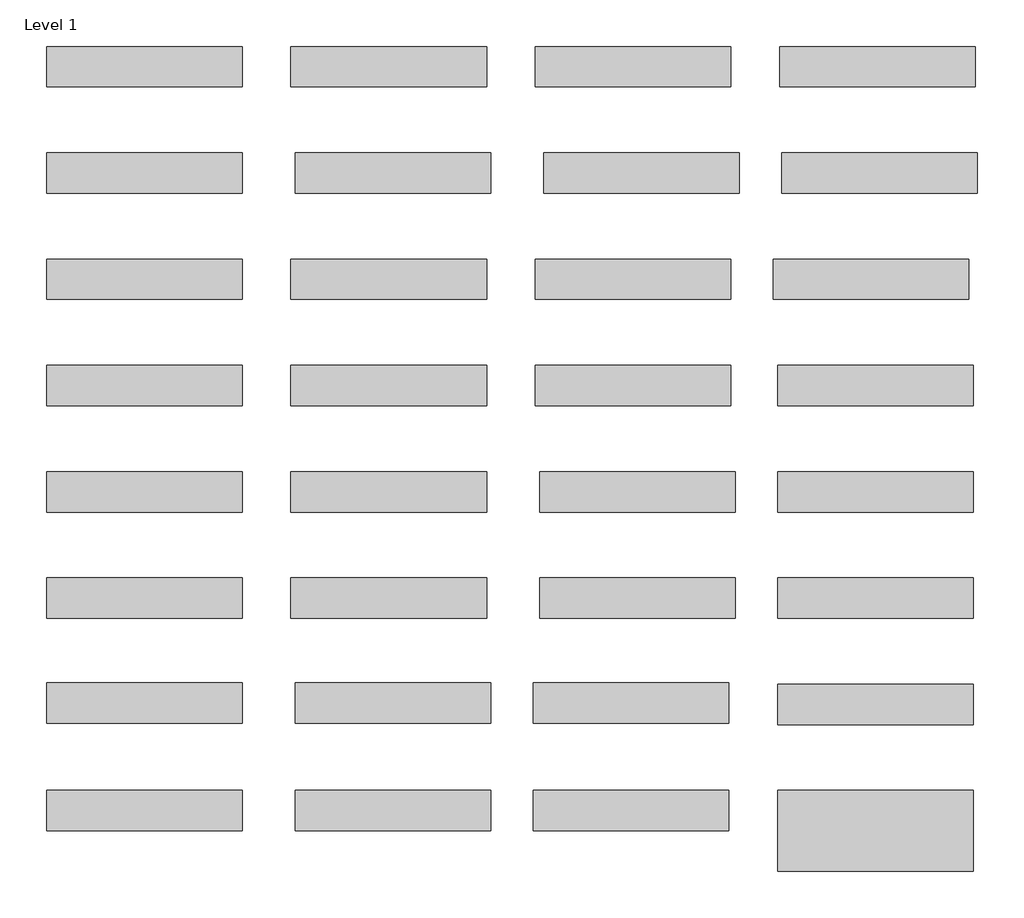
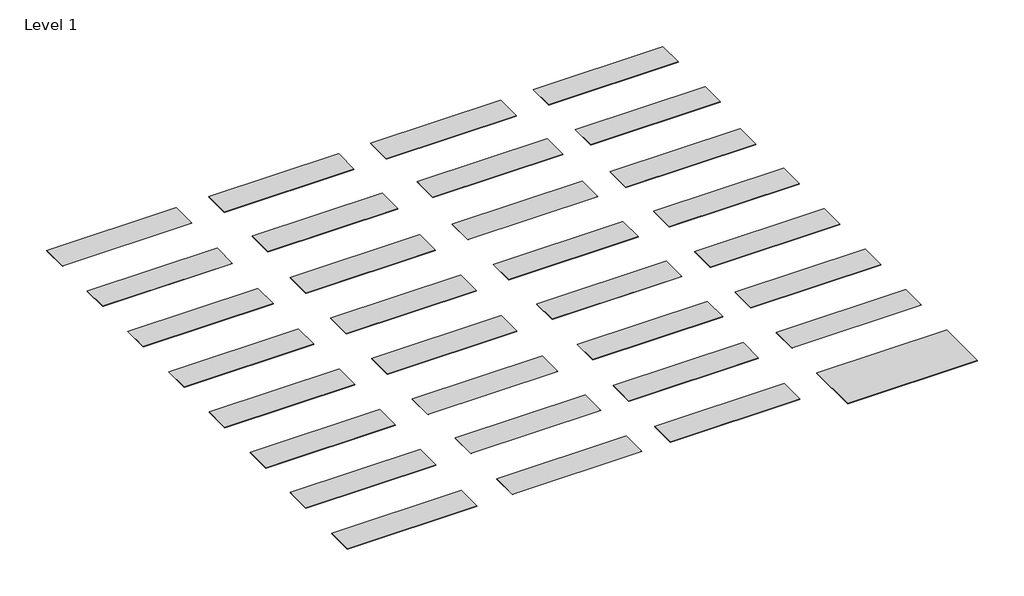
# One storey: 32 proxies.
"""IFC4 building model written with IfcOpenShell, lengths in millimetres."""

from ifc_helpers import new_model, si_unit, origin, place, context, project, spatial, transform, mapped, element, save
from components import generic_models_7f56e2ab, generic_models_bc4f7f2a

model = new_model("IFC4")

# Units and contexts
model_context = context("Model", 3, world=origin())
ifc_project = project(units=[si_unit("LENGTHUNIT", "METRE", prefix="MILLI")], contexts=[model_context])

# Site, building, storey
site = spatial("IfcSite", under=ifc_project)
building = spatial("IfcBuilding", under=site)
storey = spatial("IfcBuildingStorey", under=building, Name="Level 1", Elevation=0.0)

# Proxies
placement = place(None, origin())
generic_models_shape = generic_models_7f56e2ab(model_context)
element("IfcBuildingElementProxy", 1, Name="Indoor-Material_HIMACS_Marmo : Solid-Surface_HIMACS_Marmo_M427-Bellizzi-12mm", ObjectType="Indoor-Material_HIMACS_Marmo : Solid-Surface_HIMACS_Marmo_M427-Bellizzi-12mm", at=placement, inside=storey, context=model_context, shape_type="MappedRepresentation", body=[
    mapped(generic_models_shape, transform((-25932.0748674, 2227.8111796, 0.0), x_axis=(1.0, 0.0, 0.0), y_axis=(0.0, 1.0, 0.0), z_axis=(0.0, 0.0, 1.0))),
])
element("IfcBuildingElementProxy", 2, Name="Indoor-Material_HIMACS_Marmo : Solid-Surface_HIMACS_Marmo_M608_Aurora-Grey-12mm", ObjectType="Indoor-Material_HIMACS_Marmo : Solid-Surface_HIMACS_Marmo_M608_Aurora-Grey-12mm", at=placement, inside=storey, context=model_context, shape_type="MappedRepresentation", body=[
    mapped(generic_models_shape, transform((-12132.0748674, 2227.8111796, 0.0), x_axis=(1.0000000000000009, 0.0, 0.0), y_axis=(0.0, 1.0000000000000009, 0.0), z_axis=(0.0, 0.0, 1.0))),
])
element("IfcBuildingElementProxy", 3, Name="Indoor-Material_HIMACS_Marmo : Solid-Surface_HIMACS_Marmo_M605_Sanremo-12mm", ObjectType="Indoor-Material_HIMACS_Marmo : Solid-Surface_HIMACS_Marmo_M605_Sanremo-12mm", at=placement, inside=storey, context=model_context, shape_type="MappedRepresentation", body=[
    mapped(generic_models_shape, transform((-25932.0748674, 227.8111796, 0.0), x_axis=(1.0000000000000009, 0.0, 0.0), y_axis=(0.0, 1.0000000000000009, 0.0), z_axis=(0.0, 0.0, 1.0))),
])
element("IfcBuildingElementProxy", 4, Name="Indoor-Material_HIMACS_Marmo : Solid-Surface_HIMACS_Marmo_M603_Pavia-12mm", ObjectType="Indoor-Material_HIMACS_Marmo : Solid-Surface_HIMACS_Marmo_M603_Pavia-12mm", at=placement, inside=storey, context=model_context, shape_type="MappedRepresentation", body=[
    mapped(generic_models_shape, transform((-16732.0748674, 2227.8111796, 0.0), x_axis=(1.0, 0.0, 0.0), y_axis=(0.0, 1.0, 0.0), z_axis=(0.0, 0.0, 1.0))),
])
element("IfcBuildingElementProxy", 5, Name="Indoor-Material_HIMACS_Marmo : Solid-Surface_HIMACS_Marmo_M606_Aurora-Bianco-12mm", ObjectType="Indoor-Material_HIMACS_Marmo : Solid-Surface_HIMACS_Marmo_M606_Aurora-Bianco-12mm", at=placement, inside=storey, context=model_context, shape_type="MappedRepresentation", body=[
    mapped(generic_models_shape, transform((-21332.0748674, 2227.8111796, 0.0), x_axis=(1.0000000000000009, 0.0, 0.0), y_axis=(0.0, 1.0000000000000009, 0.0), z_axis=(0.0, 0.0, 1.0))),
])
element("IfcBuildingElementProxy", 6, Name="Indoor-Material_HIMACS_Marmo : Solid-Surface_HIMACS_Marmo_M612_Aurora-Bisque-12mm", ObjectType="Indoor-Material_HIMACS_Marmo : Solid-Surface_HIMACS_Marmo_M612_Aurora-Bisque-12mm", at=placement, inside=storey, context=model_context, shape_type="MappedRepresentation", body=[
    mapped(generic_models_shape, transform((-21252.290677, 227.8111796, 0.0), x_axis=(1.0000000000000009, 0.0, 0.0), y_axis=(0.0, 1.0000000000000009, 0.0), z_axis=(0.0, 0.0, 1.0))),
])
element("IfcBuildingElementProxy", 7, Name="Indoor-Material_HIMACS_Marmo : Solid-Surface_HIMACS_Marmo_M617_Aurora-Blanc-12mm", ObjectType="Indoor-Material_HIMACS_Marmo : Solid-Surface_HIMACS_Marmo_M617_Aurora-Blanc-12mm", at=placement, inside=storey, context=model_context, shape_type="MappedRepresentation", body=[
    mapped(generic_models_shape, transform((-16572.5064865, 227.8111796, 0.0), x_axis=(1.0000000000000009, 0.0, 0.0), y_axis=(0.0, 1.0000000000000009, 0.0), z_axis=(0.0, 0.0, 1.0))),
])
element("IfcBuildingElementProxy", 8, Name="Indoor-Material_HIMACS_Marmo : Solid-Surface_HIMACS_Marmo_M615_Aurora-Cotton-12mm", ObjectType="Indoor-Material_HIMACS_Marmo : Solid-Surface_HIMACS_Marmo_M615_Aurora-Cotton-12mm", at=placement, inside=storey, context=model_context, shape_type="MappedRepresentation", body=[
    mapped(generic_models_shape, transform((-12092.722296, 227.8111796, 0.0), x_axis=(1.0000000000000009, 0.0, 0.0), y_axis=(0.0, 1.0000000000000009, 0.0), z_axis=(0.0, 0.0, 1.0))),
])
element("IfcBuildingElementProxy", 9, Name="Indoor-Material_HIMACS_Marmo : Solid-Surface_HIMACS_Marmo_M615_Aurora-Cotton-12mm", ObjectType="Indoor-Material_HIMACS_Marmo : Solid-Surface_HIMACS_Marmo_M615_Aurora-Cotton-12mm", at=placement, inside=storey, context=model_context, shape_type="MappedRepresentation", body=[
    mapped(generic_models_shape, transform((-21332.0748674, -1772.1888204, 0.0), x_axis=(1.0000000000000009, 0.0, 0.0), y_axis=(0.0, 1.0000000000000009, 0.0), z_axis=(0.0, 0.0, 1.0))),
])
element("IfcBuildingElementProxy", 10, Name="Indoor-Material_HIMACS_Marmo : Solid-Surface_HIMACS_Marmo_M601_Aurora-Torano-12mm", ObjectType="Indoor-Material_HIMACS_Marmo : Solid-Surface_HIMACS_Marmo_M601_Aurora-Torano-12mm", at=placement, inside=storey, context=model_context, shape_type="MappedRepresentation", body=[
    mapped(generic_models_shape, transform((-25932.0748674, -1772.1888204, 0.0), x_axis=(1.0000000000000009, 0.0, 0.0), y_axis=(0.0, 1.0000000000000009, 0.0), z_axis=(0.0, 0.0, 1.0))),
])
element("IfcBuildingElementProxy", 11, Name="Indoor-Material_HIMACS_Marmo : Solid-Surface_HIMACS_Marmo_M623-Aurora-Linen-Cream-12mm", ObjectType="Indoor-Material_HIMACS_Marmo : Solid-Surface_HIMACS_Marmo_M623-Aurora-Linen-Cream-12mm", at=placement, inside=storey, context=model_context, shape_type="MappedRepresentation", body=[
    mapped(generic_models_shape, transform((-16732.0748674, -1772.1888204, 0.0), x_axis=(1.0, 0.0, 0.0), y_axis=(0.0, 1.0, 0.0), z_axis=(0.0, 0.0, 1.0))),
])
element("IfcBuildingElementProxy", 12, Name="Indoor-Material_HIMACS_Marmo : Solid-Surface_HIMACS_Marmo_M625-Aurora-Terra-12mm", ObjectType="Indoor-Material_HIMACS_Marmo : Solid-Surface_HIMACS_Marmo_M625-Aurora-Terra-12mm", at=placement, inside=storey, context=model_context, shape_type="MappedRepresentation", body=[
    mapped(generic_models_shape, transform((-12252.290677, -1772.1888204, 0.0), x_axis=(1.0, 0.0, 0.0), y_axis=(0.0, 1.0, 0.0), z_axis=(0.0, 0.0, 1.0))),
])
element("IfcBuildingElementProxy", 13, Name="Indoor-Material_HIMACS_Marmo : Solid-Surface_HIMACS_Marmo_M627-Aurora-Butter-Cream-12mm", ObjectType="Indoor-Material_HIMACS_Marmo : Solid-Surface_HIMACS_Marmo_M627-Aurora-Butter-Cream-12mm", at=placement, inside=storey, context=model_context, shape_type="MappedRepresentation", body=[
    mapped(generic_models_shape, transform((-25932.0748674, -3772.1888204, 0.0), x_axis=(1.0, 0.0, 0.0), y_axis=(0.0, 1.0, 0.0), z_axis=(0.0, 0.0, 1.0))),
])
element("IfcBuildingElementProxy", 14, Name="Indoor-Material_HIMACS_Marmo : Solid-Surface_HIMACS_Marmo_M701-Aurora-Ecru-12mm", ObjectType="Indoor-Material_HIMACS_Marmo : Solid-Surface_HIMACS_Marmo_M701-Aurora-Ecru-12mm", at=placement, inside=storey, context=model_context, shape_type="MappedRepresentation", body=[
    mapped(generic_models_shape, transform((-21332.0748674, -3772.1888204, 0.0), x_axis=(1.0, 0.0, 0.0), y_axis=(0.0, 1.0, 0.0), z_axis=(0.0, 0.0, 1.0))),
])
element("IfcBuildingElementProxy", 15, Name="Indoor-Material_HIMACS_Marmo : Solid-Surface_HIMACS_Marmo_M702-Aurora-Frost-12mm", ObjectType="Indoor-Material_HIMACS_Marmo : Solid-Surface_HIMACS_Marmo_M702-Aurora-Frost-12mm", at=placement, inside=storey, context=model_context, shape_type="MappedRepresentation", body=[
    mapped(generic_models_shape, transform((-16732.0748674, -3772.1888204, 0.0), x_axis=(1.0, 0.0, 0.0), y_axis=(0.0, 1.0, 0.0), z_axis=(0.0, 0.0, 1.0))),
])
element("IfcBuildingElementProxy", 16, Name="Indoor-Material_HIMACS_Marmo : Solid-Surface_HIMACS_Marmo_M703-Aurora-Midnight-12mm", ObjectType="Indoor-Material_HIMACS_Marmo : Solid-Surface_HIMACS_Marmo_M703-Aurora-Midnight-12mm", at=placement, inside=storey, context=model_context, shape_type="MappedRepresentation", body=[
    mapped(generic_models_shape, transform((-25932.0748674, -5772.1888204, 0.0), x_axis=(1.0, 0.0, 0.0), y_axis=(0.0, 1.0, 0.0), z_axis=(0.0, 0.0, 1.0))),
])
element("IfcBuildingElementProxy", 17, Name="Indoor-Material_HIMACS_Marmo : Solid-Surface_HIMACS_Marmo_M705-Aurora-Canyon-12mm", ObjectType="Indoor-Material_HIMACS_Marmo : Solid-Surface_HIMACS_Marmo_M705-Aurora-Canyon-12mm", at=placement, inside=storey, context=model_context, shape_type="MappedRepresentation", body=[
    mapped(generic_models_shape, transform((-21332.0748674, -5772.1888204, 0.0), x_axis=(1.0, 0.0, 0.0), y_axis=(0.0, 1.0, 0.0), z_axis=(0.0, 0.0, 1.0))),
])
element("IfcBuildingElementProxy", 18, Name="Indoor-Material_HIMACS_Marmo : Solid-Surface_HIMACS_Marmo_M706-Aurora-Angora-12mm", ObjectType="Indoor-Material_HIMACS_Marmo : Solid-Surface_HIMACS_Marmo_M706-Aurora-Angora-12mm", at=placement, inside=storey, context=model_context, shape_type="MappedRepresentation", body=[
    mapped(generic_models_shape, transform((-16652.290677, -5772.1888204, 0.0), x_axis=(1.0, 0.0, 0.0), y_axis=(0.0, 1.0, 0.0), z_axis=(0.0, 0.0, 1.0))),
])
element("IfcBuildingElementProxy", 19, Name="Indoor-Material_HIMACS_Marmo : Solid-Surface_HIMACS_Marmo_M707-Aurora-Magnolia-12mm", ObjectType="Indoor-Material_HIMACS_Marmo : Solid-Surface_HIMACS_Marmo_M707-Aurora-Magnolia-12mm", at=placement, inside=storey, context=model_context, shape_type="MappedRepresentation", body=[
    mapped(generic_models_shape, transform((-12172.5064865, -5772.1888204, 0.0), x_axis=(1.0, 0.0, 0.0), y_axis=(0.0, 1.0, 0.0), z_axis=(0.0, 0.0, 1.0))),
])
element("IfcBuildingElementProxy", 20, Name="Indoor-Material_HIMACS_Marmo : Solid-Surface_HIMACS_Marmo_M801_Calacatta-Luna-12mm", ObjectType="Indoor-Material_HIMACS_Marmo : Solid-Surface_HIMACS_Marmo_M801_Calacatta-Luna-12mm", at=placement, inside=storey, context=model_context, shape_type="MappedRepresentation", body=[
    mapped(generic_models_shape, transform((-21332.0748674, -7772.1888204, 0.0), x_axis=(1.0, 0.0, 0.0), y_axis=(0.0, 1.0, 0.0), z_axis=(0.0, 0.0, 1.0))),
])
element("IfcBuildingElementProxy", 21, Name="Indoor-Material_HIMACS_Marmo : Solid-Surface_HIMACS_Marmo_M628_Aurora_Daymoon-12mm", ObjectType="Indoor-Material_HIMACS_Marmo : Solid-Surface_HIMACS_Marmo_M628_Aurora_Daymoon-12mm", at=placement, inside=storey, context=model_context, shape_type="MappedRepresentation", body=[
    mapped(generic_models_shape, transform((-16652.290677, -7772.1888204, 0.0), x_axis=(1.0, 0.0, 0.0), y_axis=(0.0, 1.0, 0.0), z_axis=(0.0, 0.0, 1.0))),
])
element("IfcBuildingElementProxy", 22, Name="Indoor-Material_HIMACS_Marmo : Solid-Surface_HIMACS_Marmo_M626_Aurora-Modern Grey-12mm", ObjectType="Indoor-Material_HIMACS_Marmo : Solid-Surface_HIMACS_Marmo_M626_Aurora-Modern Grey-12mm", at=placement, inside=storey, context=model_context, shape_type="MappedRepresentation", body=[
    mapped(generic_models_shape, transform((-25932.0748674, -9743.7252379, 0.0), x_axis=(1.0, 0.0, 0.0), y_axis=(0.0, 1.0, 0.0), z_axis=(0.0, 0.0, 1.0))),
])
element("IfcBuildingElementProxy", 23, Name="Indoor-Material_HIMACS_Marmo : Solid-Surface_HIMACS_Marmo_M704_Aurora-Stone Grey-12mm", ObjectType="Indoor-Material_HIMACS_Marmo : Solid-Surface_HIMACS_Marmo_M704_Aurora-Stone Grey-12mm", at=placement, inside=storey, context=model_context, shape_type="MappedRepresentation", body=[
    mapped(generic_models_shape, transform((-21252.290677, -9743.7252379, 0.0), x_axis=(1.0, 0.0, 0.0), y_axis=(0.0, 1.0, 0.0), z_axis=(0.0, 0.0, 1.0))),
])
element("IfcBuildingElementProxy", 24, Name="Indoor-Material_HIMACS_Marmo : Solid-Surface_HIMACS_Marmo_M803_Calacatta Ramo-12mm", ObjectType="Indoor-Material_HIMACS_Marmo : Solid-Surface_HIMACS_Marmo_M803_Calacatta Ramo-12mm", at=placement, inside=storey, context=model_context, shape_type="MappedRepresentation", body=[
    mapped(generic_models_shape, transform((-16772.5064865, -9743.7252379, 0.0), x_axis=(1.0, 0.0, 0.0), y_axis=(0.0, 1.0, 0.0), z_axis=(0.0, 0.0, 1.0))),
])
element("IfcBuildingElementProxy", 25, Name="Indoor-Material_HIMACS_Marmo : Solid-Surface_HIMACS_Marmo_M629-Aurora-Pluma-12mm", ObjectType="Indoor-Material_HIMACS_Marmo : Solid-Surface_HIMACS_Marmo_M629-Aurora-Pluma-12mm", at=placement, inside=storey, context=model_context, shape_type="MappedRepresentation", body=[
    mapped(generic_models_shape, transform((-12172.5064865, -3772.1888204, 0.0), x_axis=(1.0, 0.0, 0.0), y_axis=(0.0, 1.0, 0.0), z_axis=(0.0, 0.0, 1.0))),
])
element("IfcBuildingElementProxy", 26, Name="Indoor-Material_HIMACS_Marmo : Solid-Surface_HIMACS_Marmo_M630-Aurora-Nero-12mm", ObjectType="Indoor-Material_HIMACS_Marmo : Solid-Surface_HIMACS_Marmo_M630-Aurora-Nero-12mm", at=placement, inside=storey, context=model_context, shape_type="MappedRepresentation", body=[
    mapped(generic_models_shape, transform((-25932.0748674, -7772.1888204, 0.0), x_axis=(1.0, 0.0, 0.0), y_axis=(0.0, 1.0, 0.0), z_axis=(0.0, 0.0, 1.0))),
])
element("IfcBuildingElementProxy", 27, Name="Indoor-Material_HIMACS_Marmo : Solid-Surface_HIMACS_Marmo_M633-Aurora-Sage-12mm", ObjectType="Indoor-Material_HIMACS_Marmo : Solid-Surface_HIMACS_Marmo_M633-Aurora-Sage-12mm", at=placement, inside=storey, context=model_context, shape_type="MappedRepresentation", body=[
    mapped(generic_models_shape, transform((-12172.5064865, -7772.1888204, 0.0), x_axis=(1.0, 0.0, 0.0), y_axis=(0.0, 1.0, 0.0), z_axis=(0.0, 0.0, 1.0))),
])
element("IfcBuildingElementProxy", 28, Name="Indoor-Material_HIMACS_Marmo : Solid-Surface_HIMACS_Marmo_M802L_Calacatta-Fiore-12mm", ObjectType="Indoor-Material_HIMACS_Marmo : Solid-Surface_HIMACS_Marmo_M802L_Calacatta-Fiore-12mm", at=placement, inside=storey, context=model_context, shape_type="MappedRepresentation", body=[
    mapped(generic_models_shape, transform((-12172.5064865, -9772.1888204, 0.0), x_axis=(1.0, 0.0, 0.0), y_axis=(0.0, 1.0, 0.0), z_axis=(0.0, 0.0, 1.0))),
])
element("IfcBuildingElementProxy", 29, Name="Indoor-Material_HIMACS_Marmo : Solid-Surface_HIMACS_Marmo_M815_Calacatta-Lake-Moon-12mm", ObjectType="Indoor-Material_HIMACS_Marmo : Solid-Surface_HIMACS_Marmo_M815_Calacatta-Lake-Moon-12mm", at=placement, inside=storey, context=model_context, shape_type="MappedRepresentation", body=[
    mapped(generic_models_shape, transform((-25932.0748674, -11772.1888204, 0.0), x_axis=(1.0, 0.0, 0.0), y_axis=(0.0, 1.0, 0.0), z_axis=(0.0, 0.0, 1.0))),
])
element("IfcBuildingElementProxy", 30, Name="Indoor-Material_HIMACS_Marmo : Solid-Surface_HIMACS_Marmo_M816_Calacatta-Desert-Moon-12mm", ObjectType="Indoor-Material_HIMACS_Marmo : Solid-Surface_HIMACS_Marmo_M816_Calacatta-Desert-Moon-12mm", at=placement, inside=storey, context=model_context, shape_type="MappedRepresentation", body=[
    mapped(generic_models_shape, transform((-21252.290677, -11772.1888204, 0.0), x_axis=(1.0, 0.0, 0.0), y_axis=(0.0, 1.0, 0.0), z_axis=(0.0, 0.0, 1.0))),
])
element("IfcBuildingElementProxy", 31, Name="Indoor-Material_HIMACS_Marmo : Solid-Surface_HIMACS_Marmo_M831_Calacatta-Vista-12mm", ObjectType="Indoor-Material_HIMACS_Marmo : Solid-Surface_HIMACS_Marmo_M831_Calacatta-Vista-12mm", at=placement, inside=storey, context=model_context, shape_type="MappedRepresentation", body=[
    mapped(generic_models_shape, transform((-16772.5064865, -11772.1888204, 0.0), x_axis=(1.0, 0.0, 0.0), y_axis=(0.0, 1.0, 0.0), z_axis=(0.0, 0.0, 1.0))),
])
generic_models_2_shape = generic_models_bc4f7f2a(model_context)
element("IfcBuildingElementProxy", 32, Name="Indoor-Material_HIMACS_Marmo : Solid-Surface_HIMACS_Marmo_MW01_Aurora Alps-12mm", ObjectType="Indoor-Material_HIMACS_Marmo : Solid-Surface_HIMACS_Marmo_MW01_Aurora Alps-12mm", at=placement, inside=storey, context=model_context, shape_type="MappedRepresentation", body=[
    mapped(generic_models_2_shape, transform((-12172.5064865, -12152.1888204, 0.0), x_axis=(1.0, 0.0, 0.0), y_axis=(0.0, 1.0, 0.0), z_axis=(0.0, 0.0, 1.0))),
])

save(model, "model.ifc")
